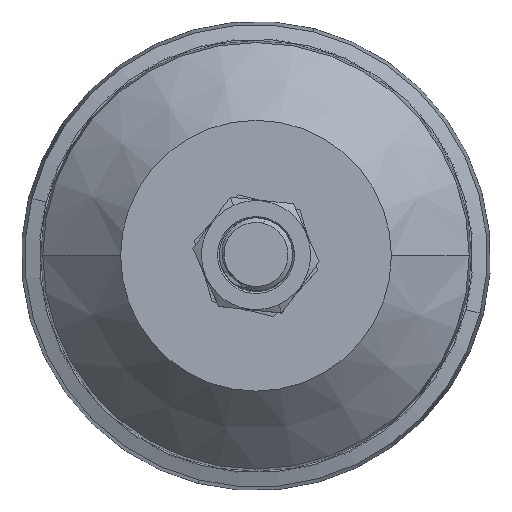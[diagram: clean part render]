
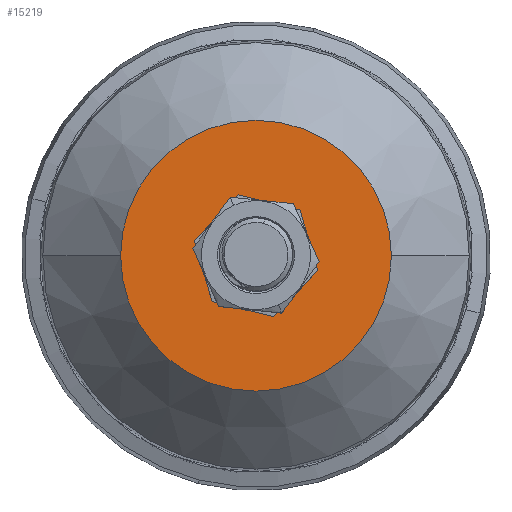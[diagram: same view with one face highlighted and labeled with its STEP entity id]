
A CAD part, top view. The second image highlights one B-rep face of the part: STEP entity #15219.
In plain terms, the highlighted planar face has unit normal (0, 0, 1).
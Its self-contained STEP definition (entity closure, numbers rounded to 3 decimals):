
#965 = CIRCLE ( 'NONE', #14764, 29.563 ) ;
#1001 = DIRECTION ( 'NONE',  ( 0., 0., 1. ) ) ;
#1263 = DIRECTION ( 'NONE',  ( 1., 0., 0. ) ) ;
#1980 = CARTESIAN_POINT ( 'NONE',  ( 12.14, 0., 29.5 ) ) ;
#2038 = FACE_BOUND ( 'NONE', #18045, .T. ) ;
#3160 = CIRCLE ( 'NONE', #19000, 29.563 ) ;
#3550 = VERTEX_POINT ( 'NONE', #9835 ) ;
#3891 = ORIENTED_EDGE ( 'NONE', *, *, #17775, .F. ) ;
#4118 = DIRECTION ( 'NONE',  ( 0., 0., 1. ) ) ;
#5021 = FACE_OUTER_BOUND ( 'NONE', #18093, .T. ) ;
#5428 = CARTESIAN_POINT ( 'NONE',  ( 0., 0., 29.5 ) ) ;
#6687 = EDGE_CURVE ( 'NONE', #14472, #7921, #965, .T. ) ;
#6892 = DIRECTION ( 'NONE',  ( 1., 0., 0. ) ) ;
#6988 = EDGE_CURVE ( 'NONE', #12501, #3550, #7428, .T. ) ;
#7428 = CIRCLE ( 'NONE', #7473, 12.14 ) ;
#7473 = AXIS2_PLACEMENT_3D ( 'NONE', #5428, #15700, #6892 ) ;
#7921 = VERTEX_POINT ( 'NONE', #8699 ) ;
#7982 = ORIENTED_EDGE ( 'NONE', *, *, #6988, .F. ) ;
#8150 = DIRECTION ( 'NONE',  ( -1., 0., 0. ) ) ;
#8699 = CARTESIAN_POINT ( 'NONE',  ( 29.563, 0., 29.5 ) ) ;
#9052 = CARTESIAN_POINT ( 'NONE',  ( -29.563, 0., 29.5 ) ) ;
#9806 = CARTESIAN_POINT ( 'NONE',  ( 0., 0., 29.5 ) ) ;
#9835 = CARTESIAN_POINT ( 'NONE',  ( -12.14, 0., 29.5 ) ) ;
#10070 = DIRECTION ( 'NONE',  ( 0., 0., 1. ) ) ;
#11306 = DIRECTION ( 'NONE',  ( 1., 0., 0. ) ) ;
#12501 = VERTEX_POINT ( 'NONE', #1980 ) ;
#12536 = CARTESIAN_POINT ( 'NONE',  ( 22.834, -22.834, 29.5 ) ) ;
#12620 = ORIENTED_EDGE ( 'NONE', *, *, #18249, .T. ) ;
#12939 = CARTESIAN_POINT ( 'NONE',  ( 0., 0., 29.5 ) ) ;
#13311 = CIRCLE ( 'NONE', #13487, 12.14 ) ;
#13456 = AXIS2_PLACEMENT_3D ( 'NONE', #12536, #16969, #8150 ) ;
#13487 = AXIS2_PLACEMENT_3D ( 'NONE', #12939, #4118, #14422 ) ;
#14422 = DIRECTION ( 'NONE',  ( 1., 0., 0. ) ) ;
#14472 = VERTEX_POINT ( 'NONE', #9052 ) ;
#14764 = AXIS2_PLACEMENT_3D ( 'NONE', #18861, #10070, #1263 ) ;
#15146 = ORIENTED_EDGE ( 'NONE', *, *, #6687, .T. ) ;
#15219 = ADVANCED_FACE ( 'NONE', ( #2038, #5021 ), #15470, .F. ) ;
#15470 = PLANE ( 'NONE',  #13456 ) ;
#15700 = DIRECTION ( 'NONE',  ( 0., 0., 1. ) ) ;
#16969 = DIRECTION ( 'NONE',  ( 0., 0., -1. ) ) ;
#17775 = EDGE_CURVE ( 'NONE', #3550, #12501, #13311, .T. ) ;
#18045 = EDGE_LOOP ( 'NONE', ( #7982, #3891 ) ) ;
#18093 = EDGE_LOOP ( 'NONE', ( #15146, #12620 ) ) ;
#18249 = EDGE_CURVE ( 'NONE', #7921, #14472, #3160, .T. ) ;
#18861 = CARTESIAN_POINT ( 'NONE',  ( 0., 0., 29.5 ) ) ;
#19000 = AXIS2_PLACEMENT_3D ( 'NONE', #9806, #1001, #11306 ) ;
